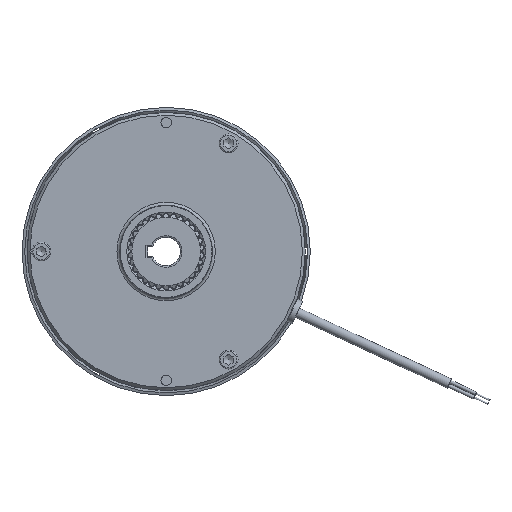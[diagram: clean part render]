
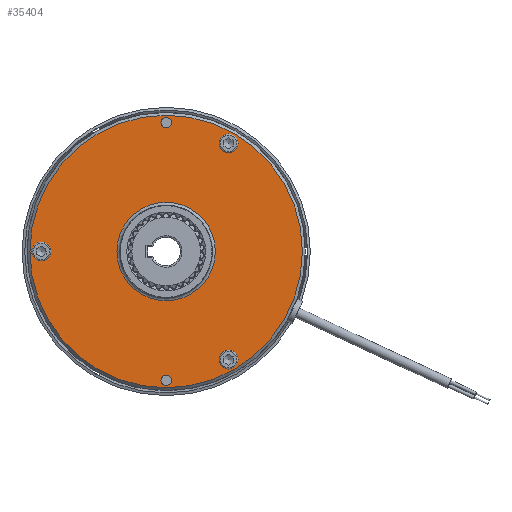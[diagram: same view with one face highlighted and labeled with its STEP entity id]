
A CAD part, left-side view. The second image highlights one B-rep face of the part: STEP entity #35404.
In plain terms, the highlighted planar face has unit normal (-1, 0, 0).
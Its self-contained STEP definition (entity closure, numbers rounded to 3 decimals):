
#430=FACE_BOUND('',#3348,.T.);
#431=FACE_BOUND('',#3349,.T.);
#432=FACE_BOUND('',#3350,.T.);
#433=FACE_BOUND('',#3351,.T.);
#434=FACE_BOUND('',#3352,.T.);
#435=FACE_BOUND('',#3353,.T.);
#914=PLANE('',#38468);
#1597=FACE_OUTER_BOUND('',#3347,.T.);
#3347=EDGE_LOOP('',(#25409));
#3348=EDGE_LOOP('',(#25410,#25411));
#3349=EDGE_LOOP('',(#25412,#25413));
#3350=EDGE_LOOP('',(#25414,#25415));
#3351=EDGE_LOOP('',(#25416,#25417));
#3352=EDGE_LOOP('',(#25418,#25419));
#3353=EDGE_LOOP('',(#25420));
#11284=CIRCLE('',#38324,5.);
#11285=CIRCLE('',#38325,5.);
#11298=CIRCLE('',#38352,5.);
#11299=CIRCLE('',#38353,5.);
#11312=CIRCLE('',#38380,5.);
#11313=CIRCLE('',#38381,5.);
#11361=CIRCLE('',#38459,2.75);
#11362=CIRCLE('',#38460,2.75);
#11364=CIRCLE('',#38463,2.75);
#11365=CIRCLE('',#38464,2.75);
#11367=CIRCLE('',#38467,72.);
#11368=CIRCLE('',#38469,26.);
#14005=VERTEX_POINT('',#55647);
#14006=VERTEX_POINT('',#55648);
#14032=VERTEX_POINT('',#55739);
#14033=VERTEX_POINT('',#55740);
#14059=VERTEX_POINT('',#55831);
#14060=VERTEX_POINT('',#55832);
#14119=VERTEX_POINT('',#56243);
#14120=VERTEX_POINT('',#56244);
#14122=VERTEX_POINT('',#56251);
#14123=VERTEX_POINT('',#56252);
#14125=VERTEX_POINT('',#56259);
#14126=VERTEX_POINT('',#56263);
#18259=EDGE_CURVE('',#14005,#14006,#11284,.T.);
#18260=EDGE_CURVE('',#14006,#14005,#11285,.T.);
#18296=EDGE_CURVE('',#14032,#14033,#11298,.T.);
#18297=EDGE_CURVE('',#14033,#14032,#11299,.T.);
#18333=EDGE_CURVE('',#14059,#14060,#11312,.T.);
#18334=EDGE_CURVE('',#14060,#14059,#11313,.T.);
#18420=EDGE_CURVE('',#14119,#14120,#11361,.T.);
#18421=EDGE_CURVE('',#14120,#14119,#11362,.T.);
#18424=EDGE_CURVE('',#14122,#14123,#11364,.T.);
#18425=EDGE_CURVE('',#14123,#14122,#11365,.T.);
#18429=EDGE_CURVE('',#14125,#14125,#11367,.T.);
#18430=EDGE_CURVE('',#14126,#14126,#11368,.T.);
#25409=ORIENTED_EDGE('',*,*,#18429,.F.);
#25410=ORIENTED_EDGE('',*,*,#18259,.T.);
#25411=ORIENTED_EDGE('',*,*,#18260,.T.);
#25412=ORIENTED_EDGE('',*,*,#18296,.T.);
#25413=ORIENTED_EDGE('',*,*,#18297,.T.);
#25414=ORIENTED_EDGE('',*,*,#18333,.T.);
#25415=ORIENTED_EDGE('',*,*,#18334,.T.);
#25416=ORIENTED_EDGE('',*,*,#18420,.T.);
#25417=ORIENTED_EDGE('',*,*,#18421,.T.);
#25418=ORIENTED_EDGE('',*,*,#18424,.T.);
#25419=ORIENTED_EDGE('',*,*,#18425,.T.);
#25420=ORIENTED_EDGE('',*,*,#18430,.T.);
#35404=ADVANCED_FACE('',(#1597,#430,#431,#432,#433,#434,#435),#914,.T.);
#38324=AXIS2_PLACEMENT_3D('',#55649,#44652,#44653);
#38325=AXIS2_PLACEMENT_3D('',#55650,#44654,#44655);
#38352=AXIS2_PLACEMENT_3D('',#55741,#44724,#44725);
#38353=AXIS2_PLACEMENT_3D('',#55742,#44726,#44727);
#38380=AXIS2_PLACEMENT_3D('',#55833,#44796,#44797);
#38381=AXIS2_PLACEMENT_3D('',#55834,#44798,#44799);
#38459=AXIS2_PLACEMENT_3D('',#56245,#44980,#44981);
#38460=AXIS2_PLACEMENT_3D('',#56246,#44982,#44983);
#38463=AXIS2_PLACEMENT_3D('',#56253,#44989,#44990);
#38464=AXIS2_PLACEMENT_3D('',#56254,#44991,#44992);
#38467=AXIS2_PLACEMENT_3D('',#56261,#44999,#45000);
#38468=AXIS2_PLACEMENT_3D('',#56262,#45001,#45002);
#38469=AXIS2_PLACEMENT_3D('',#56264,#45003,#45004);
#44652=DIRECTION('center_axis',(1.,0.,0.));
#44653=DIRECTION('ref_axis',(0.,1.,-0.013));
#44654=DIRECTION('center_axis',(1.,0.,0.));
#44655=DIRECTION('ref_axis',(0.,1.,-0.013));
#44724=DIRECTION('center_axis',(1.,0.,0.));
#44725=DIRECTION('ref_axis',(0.,1.,0.));
#44726=DIRECTION('center_axis',(1.,0.,0.));
#44727=DIRECTION('ref_axis',(0.,1.,0.));
#44796=DIRECTION('center_axis',(1.,0.,0.));
#44797=DIRECTION('ref_axis',(0.,1.,0.));
#44798=DIRECTION('center_axis',(1.,0.,0.));
#44799=DIRECTION('ref_axis',(0.,1.,0.));
#44980=DIRECTION('center_axis',(1.,0.,0.));
#44981=DIRECTION('ref_axis',(0.,0.,
1.));
#44982=DIRECTION('center_axis',(1.,0.,0.));
#44983=DIRECTION('ref_axis',(0.,0.,
1.));
#44989=DIRECTION('center_axis',(1.,0.,0.));
#44990=DIRECTION('ref_axis',(0.,0.,
1.));
#44991=DIRECTION('center_axis',(1.,0.,0.));
#44992=DIRECTION('ref_axis',(0.,0.,
1.));
#44999=DIRECTION('center_axis',(1.,0.,0.));
#45000=DIRECTION('ref_axis',(0.,-1.,0.));
#45001=DIRECTION('center_axis',(-1.,0.,0.));
#45002=DIRECTION('ref_axis',(0.,0.,
1.));
#45003=DIRECTION('center_axis',(1.,0.,0.));
#45004=DIRECTION('ref_axis',(0.,0.,
1.));
#55647=CARTESIAN_POINT('',(-23.5,71.,-0.065));
#55648=CARTESIAN_POINT('',(-23.5,61.,0.065));
#55649=CARTESIAN_POINT('Origin',(-23.5,66.,0.));
#55650=CARTESIAN_POINT('Origin',(-23.5,66.,0.));
#55739=CARTESIAN_POINT('',(-23.5,-28.,57.158));
#55740=CARTESIAN_POINT('',(-23.5,-38.,57.158));
#55741=CARTESIAN_POINT('Origin',(-23.5,-33.,57.158));
#55742=CARTESIAN_POINT('Origin',(-23.5,-33.,57.158));
#55831=CARTESIAN_POINT('',(-23.5,-28.,-57.158));
#55832=CARTESIAN_POINT('',(-23.5,-38.,-57.158));
#55833=CARTESIAN_POINT('Origin',(-23.5,-33.,-57.158));
#55834=CARTESIAN_POINT('Origin',(-23.5,-33.,-57.158));
#56243=CARTESIAN_POINT('',(-23.5,0.,-65.4));
#56244=CARTESIAN_POINT('',(-23.5,0.,-70.9));
#56245=CARTESIAN_POINT('Origin',(-23.5,0.,-68.15));
#56246=CARTESIAN_POINT('Origin',(-23.5,0.,-68.15));
#56251=CARTESIAN_POINT('',(-23.5,0.,70.9));
#56252=CARTESIAN_POINT('',(-23.5,0.,65.4));
#56253=CARTESIAN_POINT('Origin',(-23.5,0.,68.15));
#56254=CARTESIAN_POINT('Origin',(-23.5,0.,68.15));
#56259=CARTESIAN_POINT('',(-23.5,72.,0.));
#56261=CARTESIAN_POINT('Origin',(-23.5,0.,0.));
#56262=CARTESIAN_POINT('Origin',(-23.5,36.75,0.));
#56263=CARTESIAN_POINT('',(-23.5,0.,-26.));
#56264=CARTESIAN_POINT('Origin',(-23.5,0.,0.));
